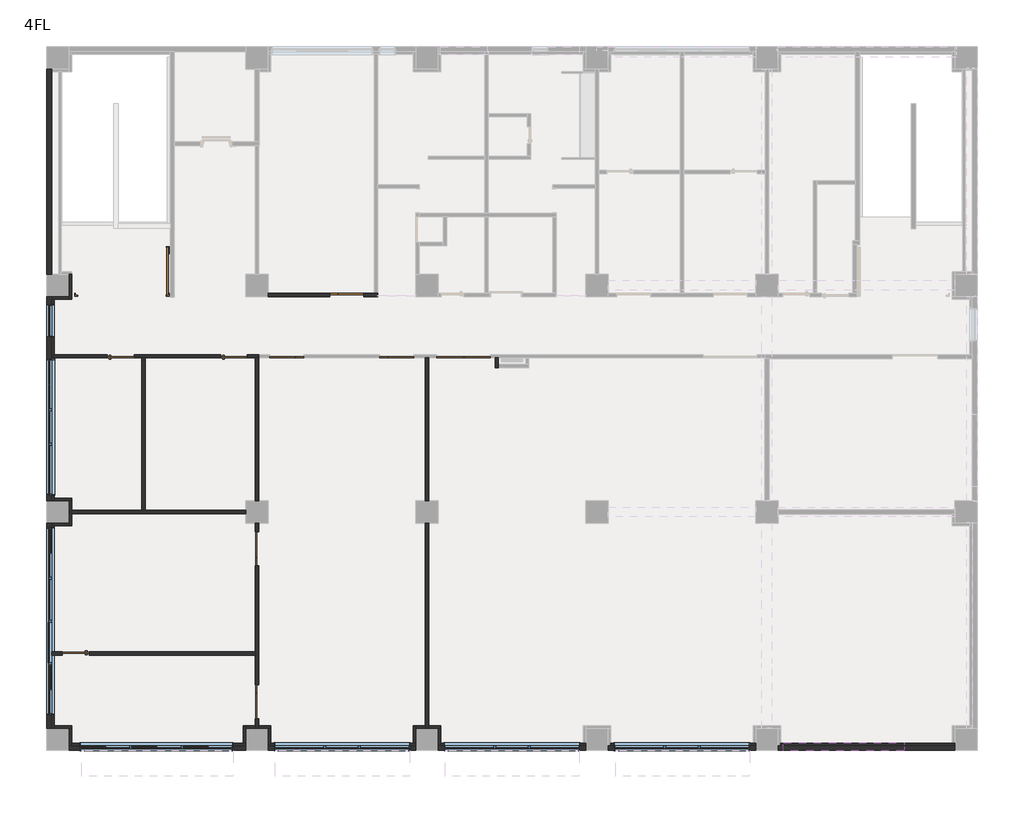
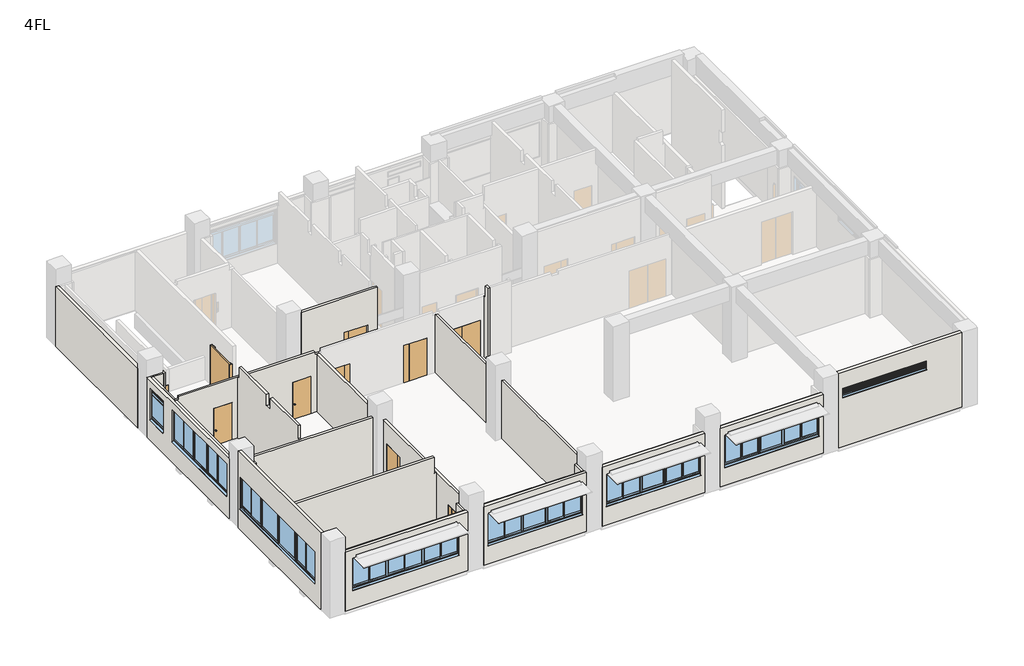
# One storey, part 1 of 5: 30 walls, 10 doors, 8 windows.
"""IFC4 building model written with IfcOpenShell, lengths in millimetres."""

from ifc_helpers import new_model, si_unit, frame, origin, place, context, project, spatial, polyline, outline, extrude, faceted_brep, transform, mapped, element, save
from components import door_18b0804b, door_c235f466, door_2816d948, door_0812e9ce, sd12_bd36843f, ag_02_89f51cda, aw1_359d20a0, aw2_52e0dac3, aw3_6590dba5, aw6a_3e550bbd

model = new_model("IFC4")

# Units and contexts
model_context = context("Model", 3, world=origin())
ifc_project = project(units=[si_unit("LENGTHUNIT", "METRE", prefix="MILLI")], contexts=[model_context])

# Site, building, storey
site = spatial("IfcSite", under=ifc_project)
building = spatial("IfcBuilding", under=site)
storey = spatial("IfcBuildingStorey", under=building, Name="4FL", Elevation=12300.0)

# Doors
placement = place(None, origin())
door_shape = door_18b0804b(model_context)
element("IfcDoor", 1, ObjectType="営_親子扉 : LD2 1200*2000", at=placement, inside=storey, context=model_context, shape_type="MappedRepresentation", body=[
    mapped(door_shape, transform((8040.0, 13500.0, 12300.0), x_axis=(-1.0, 0.0, 0.0), y_axis=(0.0, -1.0, 0.0), z_axis=(0.0, 0.0, 1.0))),
])
element("IfcDoor", 2, ObjectType="営_親子扉 : LD2 1200*2000", at=placement, inside=storey, context=model_context, shape_type="MappedRepresentation", body=[
    mapped(door_shape, transform((10162.645491, 15665.0, 12300.0), x_axis=(1.0, 0.0, 0.0), y_axis=(0.0, 1.0, 0.0), z_axis=(0.0, 0.0, 1.0))),
])
door_2_shape = door_c235f466(model_context)
element("IfcDoor", 3, ObjectType="営_親子扉 : LD2 1200*2000", at=placement, inside=storey, context=model_context, shape_type="MappedRepresentation", body=[
    mapped(door_2_shape, transform((11925.0, 13500.0, 12300.0), x_axis=(1.0, 0.0, 0.0), y_axis=(0.0, 1.0, 0.0), z_axis=(0.0, 0.0, 1.0))),
])
element("IfcDoor", 4, ObjectType="営_親子扉 : LD2 1200*2000", at=placement, inside=storey, context=model_context, shape_type="MappedRepresentation", body=[
    mapped(door_2_shape, transform((7000.0, 1300.0, 12300.0), x_axis=(0.0, -1.0, 0.0), y_axis=(1.0, 0.0, 0.0), z_axis=(0.0, 0.0, 1.0))),
])
element("IfcDoor", 5, ObjectType="営_親子扉 : LD2 1200*2000", at=placement, inside=storey, context=model_context, shape_type="MappedRepresentation", body=[
    mapped(door_shape, transform((7000.0, 6700.0, 12300.0), x_axis=(0.0, 1.0, 0.0), y_axis=(-1.0, 0.0, 0.0), z_axis=(0.0, 0.0, 1.0))),
])
door_3_shape = door_2816d948(model_context)
element("IfcDoor", 6, ObjectType="営_両開き扉 : LD4 1900*2000", at=placement, inside=storey, context=model_context, shape_type="MappedRepresentation", body=[
    mapped(door_3_shape, transform((14290.0, 13500.0, 12300.0), x_axis=(-1.0, 0.0, 0.0), y_axis=(0.0, -1.0, 0.0), z_axis=(0.0, 0.0, 1.0))),
])
door_4_shape = door_0812e9ce(model_context)
element("IfcDoor", 7, ObjectType="営_片開き扉 : LD3 950*2000", at=placement, inside=storey, context=model_context, shape_type="MappedRepresentation", body=[
    mapped(door_4_shape, transform((2185.0, 13500.0, 12300.0), x_axis=(1.0, 0.0, 0.0), y_axis=(0.0, 1.0, 0.0), z_axis=(0.0, 0.0, 1.0))),
])
element("IfcDoor", 8, ObjectType="営_片開き扉 : LD3 950*2000", at=placement, inside=storey, context=model_context, shape_type="MappedRepresentation", body=[
    mapped(door_4_shape, transform((6185.0, 13500.0, 12300.0), x_axis=(1.0, 0.0, 0.0), y_axis=(0.0, 1.0, 0.0), z_axis=(0.0, 0.0, 1.0))),
])
element("IfcDoor", 9, ObjectType="営_片開き扉 : LD3 950*2000", at=placement, inside=storey, context=model_context, shape_type="MappedRepresentation", body=[
    mapped(door_4_shape, transform((590.0, 3000.0, 12300.0), x_axis=(-1.0, 0.0, 0.0), y_axis=(0.0, -1.0, 0.0), z_axis=(0.0, 0.0, 1.0))),
])
sd12_shape = sd12_bd36843f(model_context)
element("IfcDoor", 10, ObjectType="営_随閉扉 B階段 2～4F : SD12", at=placement, inside=storey, context=model_context, shape_type="MappedRepresentation", body=[
    mapped(sd12_shape, transform((4000.0, 15665.0, 12300.0), x_axis=(0.0, -1.0, 0.0), y_axis=(1.0, 0.0, 0.0), z_axis=(0.0, 0.0, 1.0))),
])

# Walls
element("IfcWall", 11, ObjectType="(外壁)RC150+20", at=placement, inside=storey, context=model_context, shape_type="Brep", body=[
    faceted_brep([(-250.0, 8395.0, 12200.0), (-250.0, 15605.0, 12200.0), (-250.0, 15605.0, 15400.0), (-250.0, 8395.0, 15400.0), (-250.0, 13410.0, 15020.0), (-250.0, 13410.0, 13365.0), (-250.0, 8590.0, 13365.0), (-250.0, 8590.0, 15020.0), (-250.0, 15345.0, 15020.0), (-250.0, 15345.0, 13365.0), (-250.0, 14165.0, 13365.0), (-250.0, 14165.0, 15020.0), (-420.0, 15605.0, 15400.0), (-420.0, 15605.0, 12200.0), (-420.0, 15580.0, 12200.0), (-420.0, 8420.0, 12200.0), (-420.0, 8395.0, 12200.0), (-420.0, 8395.0, 15400.0), (-420.0, 8620.0, 13275.0), (-420.0, 13380.0, 13275.0), (-420.0, 13380.0, 14995.0), (-420.0, 8620.0, 14995.0), (-420.0, 14195.0, 13275.0), (-420.0, 15315.0, 13275.0), (-420.0, 15315.0, 14995.0), (-420.0, 14195.0, 14995.0), (-260.0, 13410.0, 15020.0), (-260.0, 13410.0, 13365.0), (-260.0, 8590.0, 13365.0), (-260.0, 8590.0, 15020.0), (-260.0, 13400.0, 13365.0), (-260.0, 8600.0, 13365.0), (-260.0, 8600.0, 15015.0), (-260.0, 13400.0, 15015.0), (-360.0, 13400.0, 15015.0), (-360.0, 13400.0, 13282.5), (-260.0, 13400.0, 13295.0), (-260.0, 8600.0, 13295.0), (-360.0, 8600.0, 13282.5), (-360.0, 8600.0, 15015.0), (-360.0, 13380.0, 13282.5), (-360.0, 8620.0, 13282.5), (-360.0, 8620.0, 14995.0), (-360.0, 13380.0, 14995.0), (-260.0, 15345.0, 15020.0), (-260.0, 15345.0, 13365.0), (-260.0, 14165.0, 13365.0), (-260.0, 14165.0, 15020.0), (-260.0, 15335.0, 13365.0), (-260.0, 14175.0, 13365.0), (-260.0, 14175.0, 15015.0), (-260.0, 15335.0, 15015.0), (-360.0, 15335.0, 15015.0), (-360.0, 15335.0, 13282.5), (-260.0, 15335.0, 13295.0), (-260.0, 14175.0, 13295.0), (-360.0, 14175.0, 13282.5), (-360.0, 14175.0, 15015.0), (-360.0, 15315.0, 13282.5), (-360.0, 14195.0, 13282.5), (-360.0, 14195.0, 14995.0), (-360.0, 15315.0, 14995.0)], [[[0, 1, 2, 3], [4, 5, 6, 7], [8, 9, 10, 11]], [[12, 13, 14, 15, 16, 17], [18, 19, 20, 21], [22, 23, 24, 25]], [[0, 16, 15, 14, 13, 1]], [[26, 27, 5, 4]], [[28, 29, 7, 6]], [[5, 27, 30, 31, 28, 6]], [[27, 26, 29, 28, 31, 32, 33, 30]], [[26, 4, 7, 29]], [[30, 33, 34, 35, 36]], [[32, 31, 37, 38, 39]], [[36, 35, 40, 19, 18, 41, 38, 37]], [[35, 34, 39, 38, 41, 42, 43, 40]], [[33, 32, 39, 34]], [[31, 30, 36, 37]], [[19, 40, 43, 20]], [[41, 18, 21, 42]], [[43, 42, 21, 20]], [[44, 45, 9, 8]], [[46, 47, 11, 10]], [[9, 45, 48, 49, 46, 10]], [[45, 44, 47, 46, 49, 50, 51, 48]], [[44, 8, 11, 47]], [[48, 51, 52, 53, 54]], [[50, 49, 55, 56, 57]], [[54, 53, 58, 23, 22, 59, 56, 55]], [[53, 52, 57, 56, 59, 60, 61, 58]], [[51, 50, 57, 52]], [[49, 48, 54, 55]], [[23, 58, 61, 24]], [[59, 22, 25, 60]], [[61, 60, 25, 24]], [[16, 0, 3, 17]], [[1, 13, 12, 2]], [[3, 2, 12, 17]]]),
    faceted_brep([(-250.0, 16395.0, 12200.0), (-250.0, 23630.0, 12200.0), (-250.0, 23630.0, 15400.0), (-250.0, 16395.0, 15400.0), (-420.0, 23630.0, 12200.0), (-420.0, 23580.0, 12200.0), (-420.0, 16420.0, 12200.0), (-420.0, 16395.0, 12200.0), (-420.0, 16395.0, 15400.0), (-420.0, 23630.0, 15400.0)], [[[0, 1, 2, 3]], [[4, 5, 6, 7, 8, 9]], [[0, 7, 6, 5, 4, 1]], [[7, 0, 3, 8]], [[1, 4, 9, 2]], [[3, 2, 9, 8]]]),
    faceted_brep([(-250.0, 370.0, 16300.0), (-250.0, 370.0, 16240.0), (-250.0, 370.0, 15400.0), (-250.0, 370.0, 12200.0), (-250.0, 7605.0, 12200.0), (-250.0, 7605.0, 15400.0), (-250.0, 7605.0, 16240.0), (-250.0, 7605.0, 16300.0), (-250.0, 7465.0, 15020.0), (-250.0, 7465.0, 13365.0), (-250.0, 835.0, 13365.0), (-250.0, 835.0, 15020.0), (-420.0, 7605.0, 16300.0), (-420.0, 7605.0, 12200.0), (-420.0, 7580.0, 12200.0), (-420.0, 420.0, 12200.0), (-420.0, 370.0, 12200.0), (-420.0, 370.0, 16300.0), (-420.0, 865.0, 13275.0), (-420.0, 7435.0, 13275.0), (-420.0, 7435.0, 14995.0), (-420.0, 865.0, 14995.0), (-260.0, 7465.0, 15020.0), (-260.0, 7465.0, 13365.0), (-260.0, 835.0, 13365.0), (-260.0, 835.0, 15020.0), (-260.0, 7455.0, 13365.0), (-260.0, 845.0, 13365.0), (-260.0, 845.0, 15015.0), (-260.0, 7455.0, 15015.0), (-360.0, 7455.0, 15015.0), (-360.0, 7455.0, 13282.5), (-260.0, 7455.0, 13295.0), (-260.0, 845.0, 13295.0), (-360.0, 845.0, 13282.5), (-360.0, 845.0, 15015.0), (-360.0, 7435.0, 13282.5), (-360.0, 865.0, 13282.5), (-360.0, 865.0, 14995.0), (-360.0, 7435.0, 14995.0)], [[[0, 1, 2, 3, 4, 5, 6, 7], [8, 9, 10, 11]], [[12, 13, 14, 15, 16, 17], [18, 19, 20, 21]], [[3, 16, 15, 14, 13, 4]], [[17, 0, 7, 12]], [[22, 23, 9, 8]], [[24, 25, 11, 10]], [[9, 23, 26, 27, 24, 10]], [[23, 22, 25, 24, 27, 28, 29, 26]], [[22, 8, 11, 25]], [[26, 29, 30, 31, 32]], [[28, 27, 33, 34, 35]], [[32, 31, 36, 19, 18, 37, 34, 33]], [[31, 30, 35, 34, 37, 38, 39, 36]], [[29, 28, 35, 30]], [[27, 26, 32, 33]], [[19, 36, 39, 20]], [[37, 18, 21, 38]], [[39, 38, 21, 20]], [[3, 2, 1, 0, 17, 16]], [[7, 6, 5, 4, 13, 12]]]),
])
element("IfcWall", 12, ObjectType="(外壁)RC150+20", at=placement, inside=storey, context=model_context, shape_type="Brep", body=[
    faceted_brep([(12605.0, -250.0, 12300.0), (7395.0, -250.0, 12300.0), (7395.0, -250.0, 15450.0), (12605.0, -250.0, 15450.0), (7590.0, -250.0, 15020.0), (7590.0, -250.0, 13365.0), (12410.0, -250.0, 13365.0), (12410.0, -250.0, 15020.0), (7395.0, -420.0, 12300.0), (12605.0, -420.0, 12300.0), (12605.0, -420.0, 15450.0), (7395.0, -420.0, 15450.0), (12380.0, -420.0, 13275.0), (7620.0, -420.0, 13275.0), (7620.0, -420.0, 14995.0), (12380.0, -420.0, 14995.0), (7590.0, -260.0, 15020.0), (7590.0, -260.0, 13365.0), (12410.0, -260.0, 13365.0), (12410.0, -260.0, 15020.0), (7600.0, -260.0, 13365.0), (12400.0, -260.0, 13365.0), (12400.0, -260.0, 15015.0), (7600.0, -260.0, 15015.0), (7600.0, -360.0, 15015.0), (7600.0, -360.0, 13282.5), (7600.0, -260.0, 13295.0), (12400.0, -260.0, 13295.0), (12400.0, -360.0, 13282.5), (12400.0, -360.0, 15015.0), (7620.0, -360.0, 13282.5), (12380.0, -360.0, 13282.5), (12380.0, -360.0, 14995.0), (7620.0, -360.0, 14995.0)], [[[0, 1, 2, 3], [4, 5, 6, 7]], [[8, 9, 10, 11], [12, 13, 14, 15]], [[8, 1, 0, 9]], [[1, 8, 11, 2]], [[9, 0, 3, 10]], [[3, 2, 11, 10]], [[16, 17, 5, 4]], [[18, 19, 7, 6]], [[5, 17, 20, 21, 18, 6]], [[17, 16, 19, 18, 21, 22, 23, 20]], [[16, 4, 7, 19]], [[20, 23, 24, 25, 26]], [[22, 21, 27, 28, 29]], [[26, 25, 30, 13, 12, 31, 28, 27]], [[25, 24, 29, 28, 31, 32, 33, 30]], [[23, 22, 29, 24]], [[21, 20, 26, 27]], [[13, 30, 33, 14]], [[31, 12, 15, 32]], [[33, 32, 15, 14]]]),
    faceted_brep([(18605.0, -250.0, 12300.0), (13395.0, -250.0, 12300.0), (13395.0, -250.0, 15450.0), (18605.0, -250.0, 15450.0), (13590.0, -250.0, 15020.0), (13590.0, -250.0, 13365.0), (18410.0, -250.0, 13365.0), (18410.0, -250.0, 15020.0), (13395.0, -420.0, 12300.0), (18605.0, -420.0, 12300.0), (18605.0, -420.0, 15450.0), (13395.0, -420.0, 15450.0), (18380.0, -420.0, 13275.0), (13620.0, -420.0, 13275.0), (13620.0, -420.0, 14995.0), (18380.0, -420.0, 14995.0), (13590.0, -260.0, 15020.0), (13590.0, -260.0, 13365.0), (18410.0, -260.0, 13365.0), (18410.0, -260.0, 15020.0), (13600.0, -260.0, 13365.0), (18400.0, -260.0, 13365.0), (18400.0, -260.0, 15015.0), (13600.0, -260.0, 15015.0), (13600.0, -360.0, 15015.0), (13600.0, -360.0, 13282.5), (13600.0, -260.0, 13295.0), (18400.0, -260.0, 13295.0), (18400.0, -360.0, 13282.5), (18400.0, -360.0, 15015.0), (13620.0, -360.0, 13282.5), (18380.0, -360.0, 13282.5), (18380.0, -360.0, 14995.0), (13620.0, -360.0, 14995.0)], [[[0, 1, 2, 3], [4, 5, 6, 7]], [[8, 9, 10, 11], [12, 13, 14, 15]], [[8, 1, 0, 9]], [[1, 8, 11, 2]], [[9, 0, 3, 10]], [[3, 2, 11, 10]], [[16, 17, 5, 4]], [[18, 19, 7, 6]], [[5, 17, 20, 21, 18, 6]], [[17, 16, 19, 18, 21, 22, 23, 20]], [[16, 4, 7, 19]], [[20, 23, 24, 25, 26]], [[22, 21, 27, 28, 29]], [[26, 25, 30, 13, 12, 31, 28, 27]], [[25, 24, 29, 28, 31, 32, 33, 30]], [[23, 22, 29, 24]], [[21, 20, 26, 27]], [[13, 30, 33, 14]], [[31, 12, 15, 32]], [[33, 32, 15, 14]]]),
    faceted_brep([(24605.0, -250.0, 12300.0), (19395.0, -250.0, 12300.0), (19395.0, -250.0, 15450.0), (24605.0, -250.0, 15450.0), (19590.0, -250.0, 15020.0), (19590.0, -250.0, 13365.0), (24410.0, -250.0, 13365.0), (24410.0, -250.0, 15020.0), (19395.0, -420.0, 12300.0), (24605.0, -420.0, 12300.0), (24605.0, -420.0, 15450.0), (19395.0, -420.0, 15450.0), (24380.0, -420.0, 13275.0), (19620.0, -420.0, 13275.0), (19620.0, -420.0, 14995.0), (24380.0, -420.0, 14995.0), (19590.0, -260.0, 15020.0), (19590.0, -260.0, 13365.0), (24410.0, -260.0, 13365.0), (24410.0, -260.0, 15020.0), (19600.0, -260.0, 13365.0), (24400.0, -260.0, 13365.0), (24400.0, -260.0, 15015.0), (19600.0, -260.0, 15015.0), (19600.0, -360.0, 15015.0), (19600.0, -360.0, 13282.5), (19600.0, -260.0, 13295.0), (24400.0, -260.0, 13295.0), (24400.0, -360.0, 13282.5), (24400.0, -360.0, 15015.0), (19620.0, -360.0, 13282.5), (24380.0, -360.0, 13282.5), (24380.0, -360.0, 14995.0), (19620.0, -360.0, 14995.0)], [[[0, 1, 2, 3], [4, 5, 6, 7]], [[8, 9, 10, 11], [12, 13, 14, 15]], [[8, 1, 0, 9]], [[16, 17, 5, 4]], [[18, 19, 7, 6]], [[5, 17, 20, 21, 18, 6]], [[17, 16, 19, 18, 21, 22, 23, 20]], [[16, 4, 7, 19]], [[20, 23, 24, 25, 26]], [[22, 21, 27, 28, 29]], [[26, 25, 30, 13, 12, 31, 28, 27]], [[25, 24, 29, 28, 31, 32, 33, 30]], [[23, 22, 29, 24]], [[21, 20, 26, 27]], [[13, 30, 33, 14]], [[31, 12, 15, 32]], [[33, 32, 15, 14]], [[1, 8, 11, 2]], [[9, 0, 3, 10]], [[3, 2, 11, 10]]]),
    faceted_brep([(6605.0, -250.0, 12300.0), (370.0, -250.0, 12300.0), (370.0, -250.0, 15450.0), (6605.0, -250.0, 15450.0), (732.5, -250.0, 15020.0), (732.5, -250.0, 13365.0), (6157.5, -250.0, 13365.0), (6157.5, -250.0, 15020.0), (6605.0, -420.0, 12300.0), (6605.0, -420.0, 15450.0), (370.0, -420.0, 15450.0), (370.0, -420.0, 12300.0), (6127.5, -420.0, 13275.0), (762.5, -420.0, 13275.0), (762.5, -420.0, 14995.0), (6127.5, -420.0, 14995.0), (732.5, -260.0, 15020.0), (732.5, -260.0, 13365.0), (6157.5, -260.0, 13365.0), (6157.5, -260.0, 15020.0), (742.5, -260.0, 13365.0), (6147.5, -260.0, 13365.0), (6147.5, -260.0, 15015.0), (742.5, -260.0, 15015.0), (742.5, -360.0, 15015.0), (742.5, -360.0, 13282.5), (742.5, -260.0, 13295.0), (6147.5, -260.0, 13295.0), (6147.5, -360.0, 13282.5), (6147.5, -360.0, 15015.0), (762.5, -360.0, 13282.5), (6127.5, -360.0, 13282.5), (6127.5, -360.0, 14995.0), (762.5, -360.0, 14995.0)], [[[0, 1, 2, 3], [4, 5, 6, 7]], [[8, 9, 10, 11], [12, 13, 14, 15]], [[0, 8, 11, 1]], [[16, 17, 5, 4]], [[18, 19, 7, 6]], [[5, 17, 20, 21, 18, 6]], [[17, 16, 19, 18, 21, 22, 23, 20]], [[16, 4, 7, 19]], [[20, 23, 24, 25, 26]], [[22, 21, 27, 28, 29]], [[26, 25, 30, 13, 12, 31, 28, 27]], [[25, 24, 29, 28, 31, 32, 33, 30]], [[23, 22, 29, 24]], [[21, 20, 26, 27]], [[13, 30, 33, 14]], [[31, 12, 15, 32]], [[33, 32, 15, 14]], [[8, 0, 3, 9]], [[1, 11, 10, 2]], [[3, 2, 10, 9]]]),
    faceted_brep([(25395.0, -250.0, 12300.0), (25395.0, -250.0, 15450.0), (25395.0, -250.0, 16240.0), (25395.0, -250.0, 16300.0), (31630.0, -250.0, 16300.0), (31630.0, -250.0, 16240.0), (31630.0, -250.0, 15450.0), (31630.0, -250.0, 12300.0), (25572.7, -250.0, 15435.0), (25572.7, -250.0, 15015.0), (29852.7, -250.0, 15015.0), (29852.7, -250.0, 15435.0), (25395.0, -420.0, 16300.0), (25395.0, -420.0, 12300.0), (31630.0, -420.0, 12300.0), (31630.0, -420.0, 16300.0), (29822.7, -420.0, 14925.0), (25602.7, -420.0, 14925.0), (25602.7, -420.0, 15410.0), (29822.7, -420.0, 15410.0), (25572.7, -290.0, 15435.0), (25572.7, -290.0, 15015.0), (29852.7, -290.0, 15015.0), (29852.7, -290.0, 15435.0), (25582.7, -290.0, 15015.0), (29842.7, -290.0, 15015.0), (29842.7, -290.0, 15430.0), (25582.7, -290.0, 15430.0), (25582.7, -360.0, 15430.0), (25582.7, -360.0, 14934.2307692), (25582.7, -290.0, 14945.0), (29842.7, -290.0, 14945.0), (29842.7, -360.0, 14934.2307692), (29842.7, -360.0, 15430.0), (25602.7, -360.0, 14934.2307692), (29822.7, -360.0, 14934.2307692), (29822.7, -360.0, 15410.0), (25602.7, -360.0, 15410.0)], [[[0, 1, 2, 3, 4, 5, 6, 7], [8, 9, 10, 11]], [[12, 13, 14, 15], [16, 17, 18, 19]], [[13, 0, 7, 14]], [[3, 12, 15, 4]], [[3, 2, 1, 0, 13, 12]], [[7, 6, 5, 4, 15, 14]], [[20, 21, 9, 8]], [[22, 23, 11, 10]], [[9, 21, 24, 25, 22, 10]], [[21, 20, 23, 22, 25, 26, 27, 24]], [[20, 8, 11, 23]], [[24, 27, 28, 29, 30]], [[26, 25, 31, 32, 33]], [[30, 29, 34, 17, 16, 35, 32, 31]], [[29, 28, 33, 32, 35, 36, 37, 34]], [[27, 26, 33, 28]], [[25, 24, 30, 31]], [[17, 34, 37, 18]], [[35, 16, 19, 36]], [[37, 36, 19, 18]]]),
])
element("IfcWall", 13, ObjectType="(内壁)W4", at=placement, inside=storey, context=model_context, shape_type="Brep", body=[
    faceted_brep([(1710.0, 13440.0, 12300.0), (1710.0, 13440.0, 14300.0), (2660.0, 13440.0, 14300.0), (2660.0, 13440.0, 12300.0), (2930.0, 13440.0, 12300.0), (3050.0, 13440.0, 12300.0), (5710.0, 13440.0, 12300.0), (5710.0, 13440.0, 14300.0), (6660.0, 13440.0, 14300.0), (6660.0, 13440.0, 12300.0), (6940.0, 13440.0, 12300.0), (7050.0, 13440.0, 12300.0), (7050.0, 13440.0, 15400.0), (6940.0, 13440.0, 15400.0), (6825.0, 13440.0, 15400.0), (6825.0, 13440.0, 15550.0), (3050.0, 13440.0, 15550.0), (2930.0, 13440.0, 15550.0), (-50.0, 13440.0, 15550.0), (-50.0, 13440.0, 15400.0), (-160.0, 13440.0, 15400.0), (-250.0, 13440.0, 15400.0), (-250.0, 13440.0, 12300.0), (-160.0, 13440.0, 12300.0), (1710.0, 13560.0, 14300.0), (1710.0, 13560.0, 12300.0), (-160.0, 13560.0, 12300.0), (-250.0, 13560.0, 12300.0), (-250.0, 13560.0, 15400.0), (-160.0, 13560.0, 15400.0), (-50.0, 13560.0, 15400.0), (-50.0, 13560.0, 15550.0), (6825.0, 13560.0, 15550.0), (6825.0, 13560.0, 15400.0), (7050.0, 13560.0, 15400.0), (7050.0, 13560.0, 12300.0), (6660.0, 13560.0, 12300.0), (6660.0, 13560.0, 14300.0), (5710.0, 13560.0, 14300.0), (5710.0, 13560.0, 12300.0), (2660.0, 13560.0, 12300.0), (2660.0, 13560.0, 14300.0)], [[[0, 1, 2, 3, 4, 5, 6, 7, 8, 9, 10, 11, 12, 13, 14, 15, 16, 17, 18, 19, 20, 21, 22, 23]], [[24, 25, 26, 27, 28, 29, 30, 31, 32, 33, 34, 35, 36, 37, 38, 39, 40, 41]], [[3, 40, 39, 6, 5, 4]], [[35, 11, 10, 9, 36]], [[22, 27, 26, 25, 0, 23]], [[11, 35, 34, 12]], [[31, 18, 17, 16, 15, 32]], [[27, 22, 21, 28]], [[25, 24, 1, 0]], [[41, 40, 3, 2]], [[24, 41, 2, 1]], [[39, 38, 7, 6]], [[37, 36, 9, 8]], [[38, 37, 8, 7]], [[30, 19, 18, 31]], [[19, 30, 29, 28, 21, 20]], [[33, 14, 13, 12, 34]], [[14, 33, 32, 15]]]),
])
element("IfcWall", 14, ObjectType="(内壁)W3", at=placement, inside=storey, context=model_context, shape_type="Brep", body=[
    faceted_brep([(13060.0, 8395.0, 12300.0), (13060.0, 13440.0, 12300.0), (13060.0, 13440.0, 15400.0), (13060.0, 8395.0, 15400.0), (12940.0, 13440.0, 12300.0), (12940.0, 8395.0, 12300.0), (12940.0, 8395.0, 15400.0), (12940.0, 13440.0, 15400.0)], [[[0, 1, 2, 3]], [[4, 5, 6, 7]], [[4, 1, 0, 5]], [[1, 4, 7, 2]], [[5, 0, 3, 6]], [[3, 2, 7, 6]]]),
    faceted_brep([(13060.0, 370.0, 12300.0), (13060.0, 460.0, 12300.0), (13060.0, 7605.0, 12300.0), (13060.0, 7605.0, 15400.0), (13060.0, 460.0, 15400.0), (13060.0, 370.0, 15400.0), (12940.0, 7605.0, 12300.0), (12940.0, 460.0, 12300.0), (12940.0, 370.0, 12300.0), (12940.0, 370.0, 15400.0), (12940.0, 460.0, 15400.0), (12940.0, 7605.0, 15400.0)], [[[0, 1, 2, 3, 4, 5]], [[6, 7, 8, 9, 10, 11]], [[0, 8, 7, 6, 2, 1]], [[8, 0, 5, 9]], [[2, 6, 11, 3]], [[5, 4, 3, 11, 10, 9]]]),
])
element("IfcWall", 15, ObjectType="(内壁)W4", at=placement, inside=storey, context=model_context, shape_type="Brep", body=[
    faceted_brep([(370.0, 7940.0, 12300.0), (460.0, 7940.0, 12300.0), (6605.0, 7940.0, 12300.0), (6605.0, 7940.0, 15450.0), (370.0, 7940.0, 15450.0), (370.0, 7940.0, 15400.0), (6605.0, 8060.0, 12300.0), (3050.0, 8060.0, 12300.0), (2930.0, 8060.0, 12300.0), (460.0, 8060.0, 12300.0), (370.0, 8060.0, 12300.0), (370.0, 8060.0, 15400.0), (370.0, 8060.0, 15450.0), (2930.0, 8060.0, 15450.0), (3050.0, 8060.0, 15450.0), (6605.0, 8060.0, 15450.0)], [[[0, 1, 2, 3, 4, 5]], [[6, 7, 8, 9, 10, 11, 12, 13, 14, 15]], [[6, 2, 1, 0, 10, 9, 8, 7]], [[2, 6, 15, 3]], [[10, 0, 5, 4, 12, 11]], [[4, 3, 15, 14, 13, 12]]]),
])
element("IfcWall", 16, ObjectType="(内壁)W4", at=placement, inside=storey, context=model_context, shape_type="SweptSolid", body=[
    extrude(outline(polyline([(13440.0, 12300.0), (8060.0, 12300.0), (8060.0, 15450.0), (8175.0, 15450.0), (8175.0, 16150.0), (10575.0, 16150.0), (10575.0, 15550.0), (10925.0, 15550.0), (10925.0, 16150.0), (13325.0, 16150.0), (13325.0, 15550.0), (13440.0, 15550.0), (13440.0, 12300.0)])), frame((2930.0, 0.0, 0.0), z_axis=(1.0, 0.0, 0.0), x_axis=(0.0, 1.0, 0.0)), (0.0, 0.0, 1.0), 120.0),
])
element("IfcWall", 17, ObjectType="(内壁)W4", at=placement, inside=storey, context=model_context, shape_type="SweptSolid", body=[
    extrude(outline(polyline([(16250.0, -250.0), (12300.0, -250.0), (12300.0, 115.0), (14300.0, 115.0), (14300.0, 1065.0), (12300.0, 1065.0), (12300.0, 6940.0), (15400.0, 6940.0), (15400.0, 6825.0), (16250.0, 6825.0), (16250.0, -250.0)])), frame((0.0, 2940.0, 0.0), z_axis=(0.0, 1.0, 0.0), x_axis=(0.0, 0.0, 1.0)), (0.0, 0.0, 1.0), 120.0),
])
element("IfcWall", 18, ObjectType="(内壁)W4", at=placement, inside=storey, context=model_context, shape_type="Brep", body=[
    faceted_brep([(6940.0, 6100.0, 14300.0), (6940.0, 6100.0, 12300.0), (6940.0, 3060.0, 12300.0), (6940.0, 2940.0, 12300.0), (6940.0, 1900.0, 12300.0), (6940.0, 1900.0, 14300.0), (6940.0, 700.0, 14300.0), (6940.0, 700.0, 12300.0), (6940.0, 460.0, 12300.0), (6940.0, 370.0, 12300.0), (6940.0, 370.0, 15400.0), (6940.0, 460.0, 15400.0), (6940.0, 2940.0, 15400.0), (6940.0, 3060.0, 15400.0), (6940.0, 7605.0, 15400.0), (6940.0, 7605.0, 12300.0), (6940.0, 7300.0, 12300.0), (6940.0, 7300.0, 14300.0), (7060.0, 6100.0, 12300.0), (7060.0, 6100.0, 14300.0), (7060.0, 7300.0, 14300.0), (7060.0, 7300.0, 12300.0), (7060.0, 7605.0, 12300.0), (7060.0, 7605.0, 15400.0), (7060.0, 460.0, 15400.0), (7060.0, 370.0, 15400.0), (7060.0, 370.0, 12300.0), (7060.0, 460.0, 12300.0), (7060.0, 700.0, 12300.0), (7060.0, 700.0, 14300.0), (7060.0, 1900.0, 14300.0), (7060.0, 1900.0, 12300.0)], [[[0, 1, 2, 3, 4, 5, 6, 7, 8, 9, 10, 11, 12, 13, 14, 15, 16, 17]], [[18, 19, 20, 21, 22, 23, 24, 25, 26, 27, 28, 29, 30, 31]], [[1, 18, 31, 4, 3, 2]], [[21, 16, 15, 22]], [[7, 28, 27, 26, 9, 8]], [[1, 0, 19, 18]], [[17, 16, 21, 20]], [[0, 17, 20, 19]], [[31, 30, 5, 4]], [[29, 28, 7, 6]], [[30, 29, 6, 5]], [[9, 26, 25, 10]], [[22, 15, 14, 23]], [[14, 13, 12, 11, 10, 25, 24, 23]]]),
    faceted_brep([(6940.0, 13440.0, 12300.0), (6940.0, 8395.0, 12300.0), (6940.0, 8395.0, 15400.0), (6940.0, 13440.0, 15400.0), (7060.0, 8395.0, 12300.0), (7060.0, 13440.0, 12300.0), (7060.0, 13440.0, 15400.0), (7060.0, 8395.0, 15400.0), (7050.0, 13440.0, 12300.0), (7050.0, 13440.0, 15400.0)], [[[0, 1, 2, 3]], [[4, 5, 6, 7]], [[0, 8, 5, 4, 1]], [[5, 8, 0, 3, 9, 6]], [[1, 4, 7, 2]], [[3, 2, 7, 6, 9]]]),
])
element("IfcWall", 19, ObjectType="(内壁)W3", at=placement, inside=storey, context=model_context, shape_type="Brep", body=[
    faceted_brep([(10762.645491, 15725.0, 14300.0), (9562.645491, 15725.0, 14300.0), (9562.645491, 15725.0, 12300.0), (7395.0, 15725.0, 12300.0), (7395.0, 15725.0, 16150.0), (11140.0, 15725.0, 16150.0), (11260.0, 15725.0, 16150.0), (11260.0, 15725.0, 12300.0), (11140.0, 15725.0, 12300.0), (10762.645491, 15725.0, 12300.0), (9562.645491, 15605.0, 14300.0), (10762.645491, 15605.0, 14300.0), (10762.645491, 15605.0, 12300.0), (11260.0, 15605.0, 12300.0), (11260.0, 15605.0, 16150.0), (7395.0, 15605.0, 16150.0), (7395.0, 15605.0, 12300.0), (9562.645491, 15605.0, 12300.0)], [[[0, 1, 2, 3, 4, 5, 6, 7, 8, 9]], [[10, 11, 12, 13, 14, 15, 16, 17]], [[12, 9, 8, 7, 13]], [[2, 17, 16, 3]], [[14, 6, 5, 4, 15]], [[1, 0, 11, 10]], [[0, 9, 12, 11]], [[2, 1, 10, 17]], [[4, 3, 16, 15]], [[7, 6, 14, 13]]]),
])
element("IfcWall", 20, ObjectType="(内壁)W5", at=placement, inside=storey, context=model_context, shape_type="Brep", body=[
    faceted_brep([(370.0, 16395.0, 12300.0), (370.0, 15605.0, 12300.0), (370.0, 15515.0, 12300.0), (370.0, 15515.0, 15400.0), (370.0, 15605.0, 15400.0), (370.0, 16395.0, 15400.0), (460.0, 16395.0, 12300.0), (460.0, 16395.0, 15400.0), (460.0, 15515.0, 15400.0), (460.0, 15515.0, 12300.0)], [[[0, 1, 2, 3, 4, 5]], [[6, 7, 8, 9]], [[2, 1, 0, 6, 9]], [[5, 4, 3, 8, 7]], [[0, 5, 7, 6]], [[3, 2, 9, 8]]]),
])
element("IfcWall", 21, ObjectType="(内壁)W5", at=placement, inside=storey, context=model_context, shape_type="Brep", body=[
    faceted_brep([(370.0, 15605.0, 12300.0), (-250.0, 15605.0, 12300.0), (-250.0, 15605.0, 15400.0), (370.0, 15605.0, 15400.0), (370.0, 15515.0, 12300.0), (370.0, 15515.0, 15400.0), (-160.0, 15515.0, 15400.0), (-250.0, 15515.0, 15400.0), (-250.0, 15515.0, 12300.0)], [[[0, 1, 2, 3]], [[4, 5, 6, 7, 8]], [[1, 0, 4, 8]], [[3, 2, 7, 6, 5]], [[0, 3, 5, 4]], [[2, 1, 8, 7]]]),
])
element("IfcWall", 22, ObjectType="(内壁)W5", at=placement, inside=storey, context=model_context, shape_type="Brep", body=[
    faceted_brep([(-250.0, 15515.0, 12200.0), (-250.0, 8395.0, 12200.0), (-250.0, 8395.0, 15400.0), (-250.0, 13440.0, 15400.0), (-250.0, 13440.0, 12300.0), (-250.0, 13560.0, 12300.0), (-250.0, 13560.0, 15400.0), (-250.0, 15515.0, 15400.0), (-250.0, 15515.0, 12300.0), (-250.0, 15345.0, 13365.0), (-250.0, 15345.0, 15020.0), (-250.0, 14165.0, 15020.0), (-250.0, 14165.0, 13365.0), (-250.0, 13410.0, 13365.0), (-250.0, 13410.0, 15020.0), (-250.0, 8590.0, 15020.0), (-250.0, 8590.0, 13365.0), (-160.0, 8395.0, 12200.0), (-160.0, 8485.0, 12200.0), (-160.0, 15515.0, 12200.0), (-160.0, 15515.0, 15400.0), (-160.0, 13560.0, 15400.0), (-160.0, 13560.0, 12300.0), (-160.0, 13440.0, 12300.0), (-160.0, 13440.0, 15400.0), (-160.0, 8485.0, 15400.0), (-160.0, 8395.0, 15400.0), (-160.0, 15345.0, 15020.0), (-160.0, 15345.0, 13365.0), (-160.0, 14165.0, 13365.0), (-160.0, 14165.0, 15020.0), (-160.0, 13410.0, 15020.0), (-160.0, 13410.0, 13365.0), (-160.0, 8590.0, 13365.0), (-160.0, 8590.0, 15020.0)], [[[0, 1, 2, 3, 4, 5, 6, 7, 8], [9, 10, 11, 12], [13, 14, 15, 16]], [[17, 18, 19, 20, 21, 22, 23, 24, 25, 26], [27, 28, 29, 30], [31, 32, 33, 34]], [[1, 0, 19, 18, 17]], [[20, 7, 6, 21]], [[2, 26, 25, 24, 3]], [[0, 8, 7, 20, 19]], [[2, 1, 17, 26]], [[27, 10, 9, 28]], [[29, 12, 11, 30]], [[28, 9, 12, 29]], [[10, 27, 30, 11]], [[23, 4, 3, 24]], [[5, 22, 21, 6]], [[4, 23, 22, 5]], [[31, 14, 13, 32]], [[33, 16, 15, 34]], [[16, 33, 32, 13]], [[34, 15, 14, 31]]]),
])
element("IfcWall", 23, ObjectType="(内壁)W5", at=placement, inside=storey, context=model_context, shape_type="Brep", body=[
    faceted_brep([(-160.0, 8395.0, 12200.0), (370.0, 8395.0, 12200.0), (460.0, 8395.0, 12200.0), (460.0, 8395.0, 15400.0), (370.0, 8395.0, 15400.0), (-160.0, 8395.0, 15400.0), (-160.0, 8485.0, 12200.0), (-160.0, 8485.0, 15400.0), (460.0, 8485.0, 15400.0), (460.0, 8485.0, 12200.0)], [[[0, 1, 2, 3, 4, 5]], [[6, 7, 8, 9]], [[2, 1, 0, 6, 9]], [[5, 4, 3, 8, 7]], [[0, 5, 7, 6]], [[3, 2, 9, 8]]]),
])
element("IfcWall", 24, ObjectType="(内壁)W5", at=placement, inside=storey, context=model_context, shape_type="Brep", body=[
    faceted_brep([(370.0, 8395.0, 12200.0), (370.0, 7605.0, 12200.0), (370.0, 7515.0, 12200.0), (370.0, 7515.0, 15400.0), (370.0, 7605.0, 15400.0), (370.0, 7940.0, 15400.0), (370.0, 7940.0, 12300.0), (370.0, 8060.0, 12300.0), (370.0, 8060.0, 15400.0), (370.0, 8395.0, 15400.0), (460.0, 7515.0, 12200.0), (460.0, 8395.0, 12200.0), (460.0, 8395.0, 15400.0), (460.0, 8060.0, 15400.0), (460.0, 8060.0, 12300.0), (460.0, 7940.0, 12300.0), (460.0, 7940.0, 15400.0), (460.0, 7515.0, 15400.0)], [[[0, 1, 2, 3, 4, 5, 6, 7, 8, 9]], [[10, 11, 12, 13, 14, 15, 16, 17]], [[2, 1, 0, 11, 10]], [[12, 9, 8, 13]], [[3, 17, 16, 5, 4]], [[0, 9, 12, 11]], [[3, 2, 10, 17]], [[15, 6, 5, 16]], [[7, 14, 13, 8]], [[6, 15, 14, 7]]]),
])
element("IfcWall", 25, ObjectType="(内壁)W5", at=placement, inside=storey, context=model_context, shape_type="Brep", body=[
    faceted_brep([(370.0, 7605.0, 12200.0), (-250.0, 7605.0, 12200.0), (-250.0, 7605.0, 15400.0), (370.0, 7605.0, 15400.0), (370.0, 7515.0, 12200.0), (370.0, 7515.0, 15400.0), (-160.0, 7515.0, 15400.0), (-250.0, 7515.0, 15400.0), (-250.0, 7515.0, 12200.0), (-160.0, 7515.0, 12200.0)], [[[0, 1, 2, 3]], [[4, 5, 6, 7, 8, 9]], [[1, 0, 4, 9, 8]], [[3, 2, 7, 6, 5]], [[0, 3, 5, 4]], [[2, 1, 8, 7]]]),
])
element("IfcWall", 26, ObjectType="(内壁)W5", at=placement, inside=storey, context=model_context, shape_type="Brep", body=[
    faceted_brep([(-250.0, 7515.0, 12200.0), (-250.0, 370.0, 12200.0), (-250.0, 370.0, 15400.0), (-250.0, 7515.0, 15400.0), (-250.0, 7465.0, 13365.0), (-250.0, 7465.0, 15020.0), (-250.0, 835.0, 15020.0), (-250.0, 835.0, 13365.0), (-160.0, 370.0, 12200.0), (-160.0, 460.0, 12200.0), (-160.0, 7515.0, 12200.0), (-160.0, 7515.0, 15400.0), (-160.0, 460.0, 15400.0), (-160.0, 370.0, 15400.0), (-160.0, 7465.0, 15020.0), (-160.0, 7465.0, 13365.0), (-160.0, 835.0, 13365.0), (-160.0, 835.0, 15020.0)], [[[0, 1, 2, 3], [4, 5, 6, 7]], [[8, 9, 10, 11, 12, 13], [14, 15, 16, 17]], [[1, 0, 10, 9, 8]], [[3, 2, 13, 12, 11]], [[0, 3, 11, 10]], [[2, 1, 8, 13]], [[14, 5, 4, 15]], [[16, 7, 6, 17]], [[15, 4, 7, 16]], [[5, 14, 17, 6]]]),
])
element("IfcWall", 27, ObjectType="(内壁)W5", at=placement, inside=storey, context=model_context, shape_type="Brep", body=[
    faceted_brep([(-160.0, 370.0, 12200.0), (370.0, 370.0, 12200.0), (460.0, 370.0, 12200.0), (460.0, 370.0, 15400.0), (370.0, 370.0, 15400.0), (-160.0, 370.0, 15400.0), (-160.0, 460.0, 12200.0), (-160.0, 460.0, 15400.0), (460.0, 460.0, 15400.0), (460.0, 460.0, 12200.0)], [[[0, 1, 2, 3, 4, 5]], [[6, 7, 8, 9]], [[2, 1, 0, 6, 9]], [[5, 4, 3, 8, 7]], [[0, 5, 7, 6]], [[3, 2, 9, 8]]]),
])
element("IfcWall", 28, ObjectType="(内壁)W5", at=placement, inside=storey, context=model_context, shape_type="Brep", body=[
    faceted_brep([(370.0, 370.0, 12200.0), (370.0, -250.0, 12200.0), (370.0, -250.0, 15400.0), (370.0, 370.0, 15400.0), (460.0, 370.0, 12200.0), (460.0, 370.0, 15400.0), (460.0, -160.0, 15400.0), (460.0, -250.0, 15400.0), (460.0, -250.0, 12200.0), (460.0, -160.0, 12200.0)], [[[0, 1, 2, 3]], [[4, 5, 6, 7, 8, 9]], [[1, 0, 4, 9, 8]], [[3, 2, 7, 6, 5]], [[0, 3, 5, 4]], [[1, 8, 7, 2]]]),
])
element("IfcWall", 29, ObjectType="(内壁)W5", at=placement, inside=storey, context=model_context, shape_type="Brep", body=[
    faceted_brep([(460.0, -250.0, 12200.0), (6605.0, -250.0, 12200.0), (6605.0, -250.0, 15400.0), (460.0, -250.0, 15400.0), (732.5, -250.0, 13365.0), (732.5, -250.0, 15020.0), (6157.5, -250.0, 15020.0), (6157.5, -250.0, 13365.0), (6605.0, -160.0, 12200.0), (6515.0, -160.0, 12200.0), (460.0, -160.0, 12200.0), (460.0, -160.0, 15400.0), (6515.0, -160.0, 15400.0), (6605.0, -160.0, 15400.0), (732.5, -160.0, 15020.0), (732.5, -160.0, 13365.0), (6157.5, -160.0, 13365.0), (6157.5, -160.0, 15020.0)], [[[0, 1, 2, 3], [4, 5, 6, 7]], [[8, 9, 10, 11, 12, 13], [14, 15, 16, 17]], [[1, 0, 10, 9, 8]], [[3, 2, 13, 12, 11]], [[0, 3, 11, 10]], [[2, 1, 8, 13]], [[14, 5, 4, 15]], [[16, 7, 6, 17]], [[15, 4, 7, 16]], [[5, 14, 17, 6]]]),
])
element("IfcWall", 30, ObjectType="(内壁)W5", at=placement, inside=storey, context=model_context, shape_type="Brep", body=[
    faceted_brep([(6605.0, -160.0, 12200.0), (6605.0, 370.0, 12200.0), (6605.0, 460.0, 12200.0), (6605.0, 460.0, 15400.0), (6605.0, 370.0, 15400.0), (6605.0, -160.0, 15400.0), (6515.0, -160.0, 12200.0), (6515.0, -160.0, 15400.0), (6515.0, 460.0, 15400.0), (6515.0, 460.0, 12200.0)], [[[0, 1, 2, 3, 4, 5]], [[6, 7, 8, 9]], [[2, 1, 0, 6, 9]], [[5, 4, 3, 8, 7]], [[0, 5, 7, 6]], [[3, 2, 9, 8]]]),
])
element("IfcWall", 31, ObjectType="(内壁)W5", at=placement, inside=storey, context=model_context, shape_type="Brep", body=[
    faceted_brep([(6605.0, 370.0, 12200.0), (7395.0, 370.0, 12200.0), (7485.0, 370.0, 12200.0), (7485.0, 370.0, 15400.0), (7395.0, 370.0, 15400.0), (7060.0, 370.0, 15400.0), (7060.0, 370.0, 12300.0), (6940.0, 370.0, 12300.0), (6940.0, 370.0, 15400.0), (6605.0, 370.0, 15400.0), (7485.0, 460.0, 12200.0), (6605.0, 460.0, 12200.0), (6605.0, 460.0, 15400.0), (6940.0, 460.0, 15400.0), (6940.0, 460.0, 12300.0), (7060.0, 460.0, 12300.0), (7060.0, 460.0, 15400.0), (7485.0, 460.0, 15400.0)], [[[0, 1, 2, 3, 4, 5, 6, 7, 8, 9]], [[10, 11, 12, 13, 14, 15, 16, 17]], [[2, 1, 0, 11, 10]], [[12, 9, 8, 13]], [[3, 17, 16, 5, 4]], [[0, 9, 12, 11]], [[3, 2, 10, 17]], [[7, 14, 13, 8]], [[15, 6, 5, 16]], [[14, 7, 6, 15]]]),
])
element("IfcWall", 32, ObjectType="(内壁)W5", at=placement, inside=storey, context=model_context, shape_type="Brep", body=[
    faceted_brep([(7395.0, 370.0, 12200.0), (7395.0, -250.0, 12200.0), (7395.0, -250.0, 15400.0), (7395.0, 370.0, 15400.0), (7485.0, 370.0, 12200.0), (7485.0, 370.0, 15400.0), (7485.0, -160.0, 15400.0), (7485.0, -250.0, 15400.0), (7485.0, -250.0, 12200.0), (7485.0, -160.0, 12200.0)], [[[0, 1, 2, 3]], [[4, 5, 6, 7, 8, 9]], [[1, 0, 4, 9, 8]], [[3, 2, 7, 6, 5]], [[0, 3, 5, 4]], [[1, 8, 7, 2]]]),
])
element("IfcWall", 33, ObjectType="(内壁)W5", at=placement, inside=storey, context=model_context, shape_type="Brep", body=[
    faceted_brep([(7485.0, -250.0, 12200.0), (12605.0, -250.0, 12200.0), (12605.0, -250.0, 15400.0), (7485.0, -250.0, 15400.0), (7590.0, -250.0, 13365.0), (7590.0, -250.0, 15020.0), (12410.0, -250.0, 15020.0), (12410.0, -250.0, 13365.0), (12605.0, -160.0, 12200.0), (12515.0, -160.0, 12200.0), (7485.0, -160.0, 12200.0), (7485.0, -160.0, 15400.0), (12515.0, -160.0, 15400.0), (12605.0, -160.0, 15400.0), (7590.0, -160.0, 15020.0), (7590.0, -160.0, 13365.0), (12410.0, -160.0, 13365.0), (12410.0, -160.0, 15020.0)], [[[0, 1, 2, 3], [4, 5, 6, 7]], [[8, 9, 10, 11, 12, 13], [14, 15, 16, 17]], [[1, 0, 10, 9, 8]], [[3, 2, 13, 12, 11]], [[0, 3, 11, 10]], [[2, 1, 8, 13]], [[14, 5, 4, 15]], [[16, 7, 6, 17]], [[15, 4, 7, 16]], [[5, 14, 17, 6]]]),
])
element("IfcWall", 34, ObjectType="(内壁)W5", at=placement, inside=storey, context=model_context, shape_type="Brep", body=[
    faceted_brep([(12605.0, -160.0, 12200.0), (12605.0, 370.0, 12200.0), (12605.0, 460.0, 12200.0), (12605.0, 460.0, 15400.0), (12605.0, 370.0, 15400.0), (12605.0, -160.0, 15400.0), (12515.0, -160.0, 12200.0), (12515.0, -160.0, 15400.0), (12515.0, 460.0, 15400.0), (12515.0, 460.0, 12200.0)], [[[0, 1, 2, 3, 4, 5]], [[6, 7, 8, 9]], [[2, 1, 0, 6, 9]], [[5, 4, 3, 8, 7]], [[0, 5, 7, 6]], [[3, 2, 9, 8]]]),
])
element("IfcWall", 35, ObjectType="(内壁)W5", at=placement, inside=storey, context=model_context, shape_type="Brep", body=[
    faceted_brep([(12605.0, 370.0, 12200.0), (13395.0, 370.0, 12200.0), (13485.0, 370.0, 12200.0), (13485.0, 370.0, 15400.0), (13395.0, 370.0, 15400.0), (13060.0, 370.0, 15400.0), (13060.0, 370.0, 12300.0), (12940.0, 370.0, 12300.0), (12940.0, 370.0, 15400.0), (12605.0, 370.0, 15400.0), (13485.0, 460.0, 12200.0), (12605.0, 460.0, 12200.0), (12605.0, 460.0, 15400.0), (12940.0, 460.0, 15400.0), (12940.0, 460.0, 12300.0), (13060.0, 460.0, 12300.0), (13060.0, 460.0, 15400.0), (13485.0, 460.0, 15400.0)], [[[0, 1, 2, 3, 4, 5, 6, 7, 8, 9]], [[10, 11, 12, 13, 14, 15, 16, 17]], [[2, 1, 0, 11, 10]], [[12, 9, 8, 13]], [[3, 17, 16, 5, 4]], [[0, 9, 12, 11]], [[3, 2, 10, 17]], [[15, 6, 5, 16]], [[7, 14, 13, 8]], [[6, 15, 14, 7]]]),
])
element("IfcWall", 36, ObjectType="(内壁)W5", at=placement, inside=storey, context=model_context, shape_type="Brep", body=[
    faceted_brep([(13395.0, 370.0, 12200.0), (13395.0, -250.0, 12200.0), (13395.0, -250.0, 15400.0), (13395.0, 370.0, 15400.0), (13485.0, 370.0, 12200.0), (13485.0, 370.0, 15400.0), (13485.0, -160.0, 15400.0), (13485.0, -250.0, 15400.0), (13485.0, -250.0, 12200.0), (13485.0, -160.0, 12200.0)], [[[0, 1, 2, 3]], [[4, 5, 6, 7, 8, 9]], [[1, 0, 4, 9, 8]], [[3, 2, 7, 6, 5]], [[0, 3, 5, 4]], [[1, 8, 7, 2]]]),
])
element("IfcWall", 37, ObjectType="(内壁)W5", at=placement, inside=storey, context=model_context, shape_type="Brep", body=[
    faceted_brep([(13485.0, -250.0, 12200.0), (18605.0, -250.0, 12200.0), (18605.0, -250.0, 15400.0), (13485.0, -250.0, 15400.0), (13590.0, -250.0, 13365.0), (13590.0, -250.0, 15020.0), (18410.0, -250.0, 15020.0), (18410.0, -250.0, 13365.0), (18605.0, -160.0, 12200.0), (18515.0, -160.0, 12200.0), (13485.0, -160.0, 12200.0), (13485.0, -160.0, 15400.0), (18515.0, -160.0, 15400.0), (18605.0, -160.0, 15400.0), (13590.0, -160.0, 15020.0), (13590.0, -160.0, 13365.0), (18410.0, -160.0, 13365.0), (18410.0, -160.0, 15020.0)], [[[0, 1, 2, 3], [4, 5, 6, 7]], [[8, 9, 10, 11, 12, 13], [14, 15, 16, 17]], [[1, 0, 10, 9, 8]], [[3, 2, 13, 12, 11]], [[0, 3, 11, 10]], [[2, 1, 8, 13]], [[14, 5, 4, 15]], [[16, 7, 6, 17]], [[15, 4, 7, 16]], [[5, 14, 17, 6]]]),
])
element("IfcWall", 38, ObjectType="(内壁)W5", at=placement, inside=storey, context=model_context, shape_type="Brep", body=[
    faceted_brep([(19485.0, -250.0, 12200.0), (24605.0, -250.0, 12200.0), (24605.0, -250.0, 15400.0), (19485.0, -250.0, 15400.0), (19590.0, -250.0, 13365.0), (19590.0, -250.0, 15020.0), (24410.0, -250.0, 15020.0), (24410.0, -250.0, 13365.0), (24605.0, -160.0, 12200.0), (24515.0, -160.0, 12200.0), (19485.0, -160.0, 12200.0), (19485.0, -160.0, 15400.0), (24515.0, -160.0, 15400.0), (24605.0, -160.0, 15400.0), (19590.0, -160.0, 15020.0), (19590.0, -160.0, 13365.0), (24410.0, -160.0, 13365.0), (24410.0, -160.0, 15020.0)], [[[0, 1, 2, 3], [4, 5, 6, 7]], [[8, 9, 10, 11, 12, 13], [14, 15, 16, 17]], [[1, 0, 10, 9, 8]], [[3, 2, 13, 12, 11]], [[0, 3, 11, 10]], [[2, 1, 8, 13]], [[14, 5, 4, 15]], [[16, 7, 6, 17]], [[15, 4, 7, 16]], [[5, 14, 17, 6]]]),
])
element("IfcWall", 39, ObjectType="(内壁)W5", at=placement, inside=storey, context=model_context, shape_type="Brep", body=[
    faceted_brep([(25485.0, -250.0, 12200.0), (31630.0, -250.0, 12200.0), (31630.0, -250.0, 15450.0), (25485.0, -250.0, 15450.0), (25485.0, -250.0, 15400.0), (25485.0, -160.0, 12200.0), (25485.0, -160.0, 15450.0), (31630.0, -160.0, 15450.0), (31630.0, -160.0, 15400.0), (31630.0, -160.0, 12200.0), (31540.0, -160.0, 12200.0)], [[[0, 1, 2, 3, 4]], [[5, 6, 7, 8, 9, 10]], [[1, 0, 5, 10, 9]], [[3, 2, 7, 6]], [[0, 4, 3, 6, 5]], [[2, 1, 9, 8, 7]]]),
])
element("IfcWall", 40, ObjectType="(内壁)W3", at=placement, inside=storey, context=model_context, shape_type="Brep", body=[
    faceted_brep([(15400.0, 13440.0, 12300.0), (15400.0, 13090.0, 12300.0), (15400.0, 13090.0, 16150.0), (15400.0, 13325.0, 16150.0), (15400.0, 13325.0, 15550.0), (15400.0, 13440.0, 15550.0), (15520.0, 13090.0, 12300.0), (15520.0, 13210.0, 12300.0), (15520.0, 13440.0, 12300.0), (15520.0, 13440.0, 15550.0), (15520.0, 13325.0, 15550.0), (15520.0, 13325.0, 16150.0), (15520.0, 13210.0, 16150.0), (15520.0, 13090.0, 16150.0)], [[[0, 1, 2, 3, 4, 5]], [[6, 7, 8, 9, 10, 11, 12, 13]], [[1, 0, 8, 7, 6]], [[2, 13, 12, 11, 3]], [[2, 1, 6, 13]], [[8, 0, 5, 9]], [[10, 4, 3, 11]], [[4, 10, 9, 5]]]),
])

# Windows
ag_02_shape = ag_02_89f51cda(model_context)
element("IfcWindow", 41, ObjectType="営_単窓_ガラリ : AG-02", at=placement, inside=storey, context=model_context, shape_type="MappedRepresentation", body=[
    mapped(ag_02_shape, transform((27712.7, -335.0, 13850.0), x_axis=(-1.0, 0.0, 0.0), y_axis=(0.0, -1.0, 0.0), z_axis=(0.0, 0.0, 1.0))),
])
aw1_shape = aw1_359d20a0(model_context)
element("IfcWindow", 42, ObjectType="営_連窓_両開き戸2+FIX1 : AW1", at=placement, inside=storey, context=model_context, shape_type="MappedRepresentation", body=[
    mapped(aw1_shape, transform((22000.0, -335.0, 12300.0), x_axis=(-1.0, 0.0, 0.0), y_axis=(0.0, -1.0, 0.0), z_axis=(0.0, 0.0, 1.0))),
])
element("IfcWindow", 43, ObjectType="営_連窓_両開き戸2+FIX1 : AW1", at=placement, inside=storey, context=model_context, shape_type="MappedRepresentation", body=[
    mapped(aw1_shape, transform((-335.0, 11000.0, 12300.0), x_axis=(0.0, 1.0, 0.0), y_axis=(-1.0, 0.0, 0.0), z_axis=(0.0, 0.0, 1.0))),
])
element("IfcWindow", 44, ObjectType="営_連窓_両開き戸2+FIX1 : AW1", at=placement, inside=storey, context=model_context, shape_type="MappedRepresentation", body=[
    mapped(aw1_shape, transform((16000.0, -335.0, 12300.0), x_axis=(-1.0, 0.0, 0.0), y_axis=(0.0, -1.0, 0.0), z_axis=(0.0, 0.0, 1.0))),
])
element("IfcWindow", 45, ObjectType="営_連窓_両開き戸2+FIX1 : AW1", at=placement, inside=storey, context=model_context, shape_type="MappedRepresentation", body=[
    mapped(aw1_shape, transform((10000.0, -335.0, 12300.0), x_axis=(-1.0, 0.0, 0.0), y_axis=(0.0, -1.0, 0.0), z_axis=(0.0, 0.0, 1.0))),
])
aw2_shape = aw2_52e0dac3(model_context)
element("IfcWindow", 46, ObjectType="営_連窓_引違い3 : AW2", at=placement, inside=storey, context=model_context, shape_type="MappedRepresentation", body=[
    mapped(aw2_shape, transform((3445.0, -335.0, 12300.0), x_axis=(-1.0, 0.0, 0.0), y_axis=(0.0, -1.0, 0.0), z_axis=(0.0, 0.0, 1.0))),
])
aw3_shape = aw3_6590dba5(model_context)
element("IfcWindow", 47, ObjectType="営_連窓_引違い2+FIX2 : AW3", at=placement, inside=storey, context=model_context, shape_type="MappedRepresentation", body=[
    mapped(aw3_shape, transform((-335.0, 4150.0, 12300.0), x_axis=(0.0, 1.0, 0.0), y_axis=(-1.0, 0.0, 0.0), z_axis=(0.0, 0.0, 1.0))),
])
aw6a_shape = aw6a_3e550bbd(model_context)
element("IfcWindow", 48, ObjectType="営_段窓_縦辷出し/ガラリ : AW6b", at=placement, inside=storey, context=model_context, shape_type="MappedRepresentation", body=[
    mapped(aw6a_shape, transform((-335.0, 14755.0, 12300.0), x_axis=(0.0, 1.0, 0.0), y_axis=(-1.0, 0.0, 0.0), z_axis=(0.0, 0.0, 1.0))),
])

save(model, "model.ifc")
